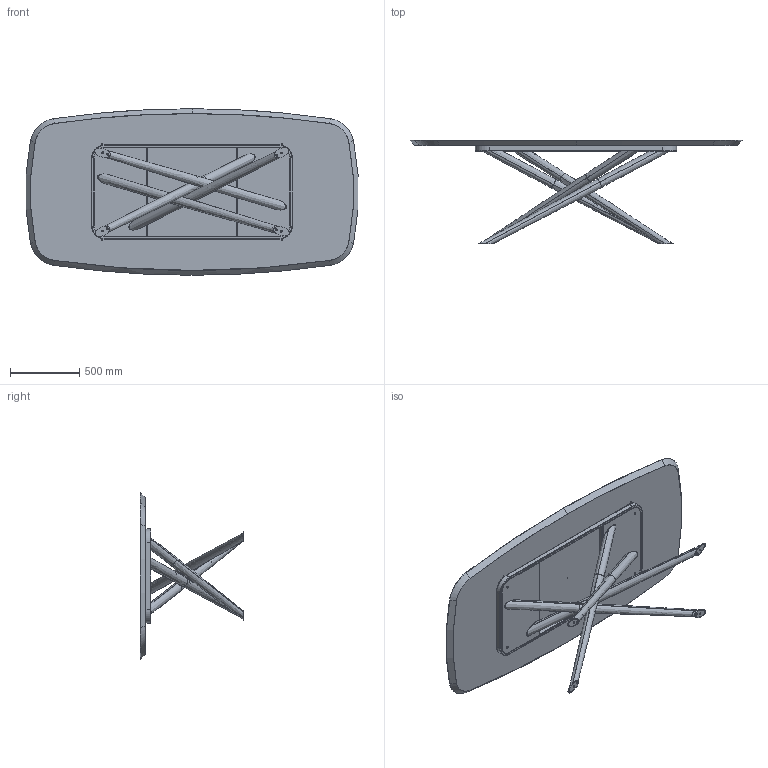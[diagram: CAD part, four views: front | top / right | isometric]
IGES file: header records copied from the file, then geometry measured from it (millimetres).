
Start section: SolidWorks IGES file using analytic representation for surfaces
Global section: file name: Y:\eforma\TECNICO\SOLIDWORKS\E-FORMA\1-TAVOLI\BALY\02 parts\BA43W.IGS; native system: SolidWorks 2022; preprocessor: SolidWorks 2022; author: eforma.tech; date: 240808.080043; units: millimetre
Bounding box: 2391.9 x 747 x 1200 mm (x, y, z)
Volume: 102797588.4 mm3; surface area: 9671337.8 mm2
Topology: 35 solids, 35 shells, 847 faces, 1778 edges, 976 vertices
Faces by surface type: revolution 479, plane 350, bspline 18
